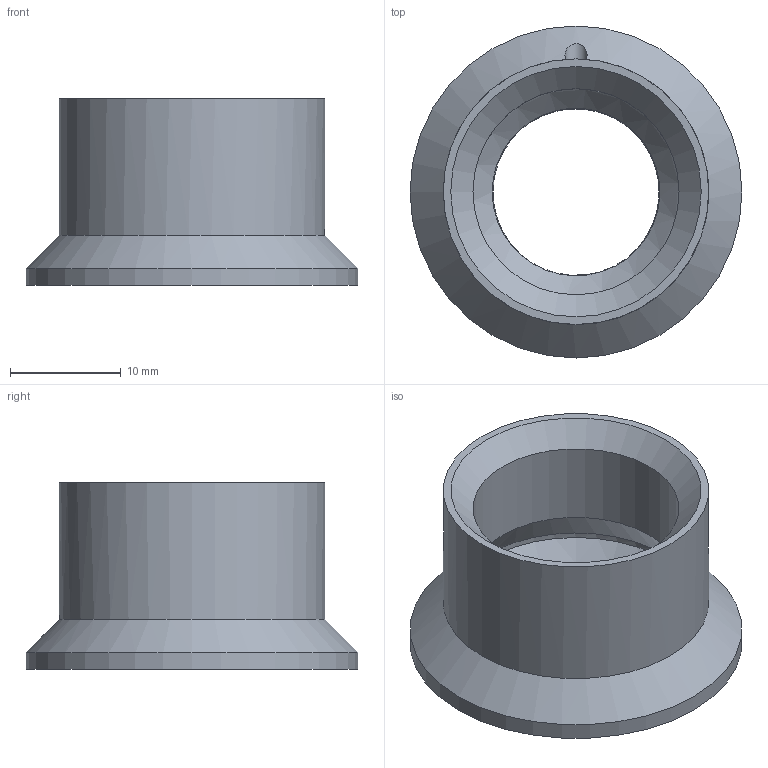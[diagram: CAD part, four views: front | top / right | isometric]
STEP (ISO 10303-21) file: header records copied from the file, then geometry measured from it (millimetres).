
FILE_DESCRIPTION(/* description */ ('Unknown'),/* implementation_level */ '2;1');
FILE_NAME(/* name */ 'Rheonics_HAW-12G-MTN',/* time_stamp */ '2023-06-05T11:56:07-05:00',/* author */ ('Unknown'),/* organization */ ('Unknown'),/* preprocessor_version */ 'ST-DEVELOPER v16.7',/* originating_system */ 'Solid Edge',/* authorisation */ 'Unknown');
FILE_SCHEMA (('AUTOMOTIVE_DESIGN {1 0 10303 214 3 1 1}'));
Length unit declared in the file: millimetre
Products named in the file (1): HAW-12G-MTN
Bounding box: 30 x 30 x 16.85 mm (x, y, z)
Volume: 3477.5 mm3; surface area: 3192.3 mm2
Topology: 1 solids, 1 shells, 12 faces, 31 edges, 19 vertices
Faces by surface type: cylinder 5, cone 4, plane 2, torus 1
Full cylindrical faces by diameter (mm): 2 x1, 18.631 x1, 24 x1, 30 x1
Entity records: 334 total; most frequent: CARTESIAN_POINT 76, DIRECTION 48, ORIENTED_EDGE 34, AXIS2_PLACEMENT_3D 24, EDGE_LOOP 23, FACE_BOUND 23, EDGE_CURVE 17, VERTEX_POINT 14
